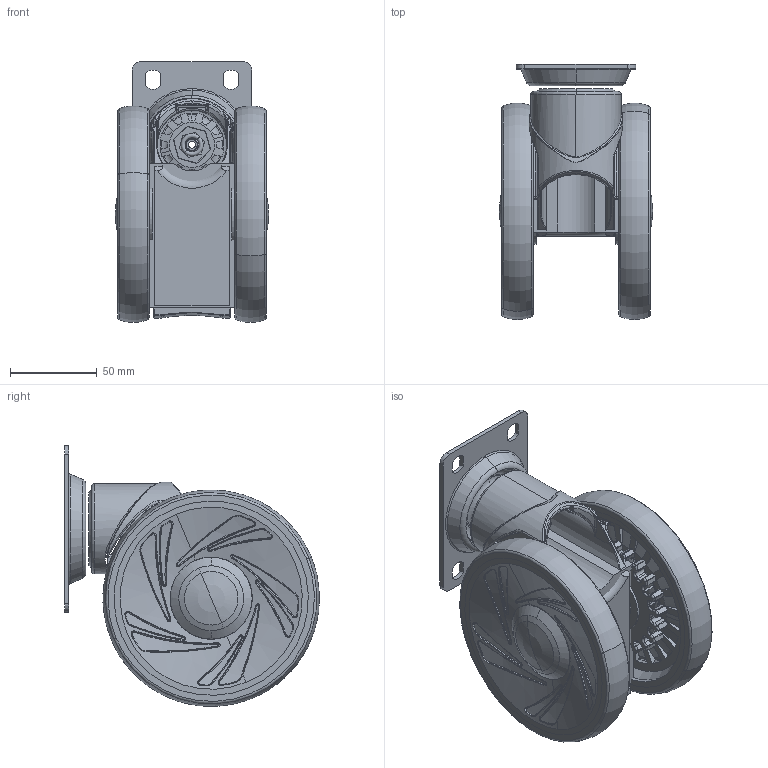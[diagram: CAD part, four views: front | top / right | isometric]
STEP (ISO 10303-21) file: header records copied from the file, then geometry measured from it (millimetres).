
FILE_DESCRIPTION((''),'2;1');
FILE_NAME('PRT0002','2025-06-26T09:52:23',('Administrator'),(''),'CREO PARAMETRIC BY PTC INC, 2022124','CREO PARAMETRIC BY PTC INC, 2022124','');
FILE_SCHEMA(('AP203_CONFIGURATION_CONTROLLED_3D_DESIGN_OF_MECHANICAL_PARTS_AND_ASSEMBLIES_MIM_LF { 1 0 10303 403 2 1 2 }'));
Products named in the file (1): PRT0002
Bounding box: 88.4 x 146.88 x 150.38 mm (x, y, z)
Surface area: 126043 mm2 (no closed solid volume)
Topology: 0 solids, 55 shells, 1113 faces, 4763 edges, 3442 vertices
Faces by surface type: plane 379, cylinder 270, bspline 236, torus 154, cone 62, extrusion 4, revolution 4, sphere 4
Entity records: 76535 total; most frequent: CARTESIAN_POINT 33709, ORIENTED_EDGE 6915, DIRECTION 6594, EDGE_CURVE 4755, VERTEX_POINT 3440, AXIS2_PLACEMENT_3D 2480, VECTOR 1627, LINE 1623
